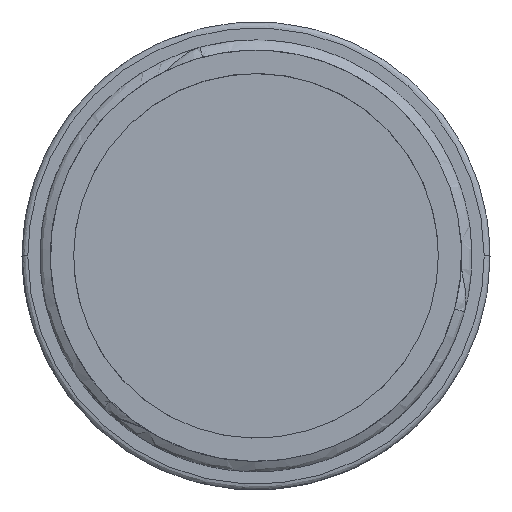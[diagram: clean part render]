
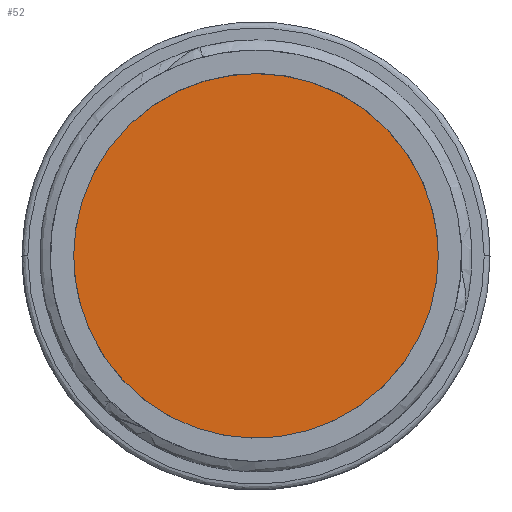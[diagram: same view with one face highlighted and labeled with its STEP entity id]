
A CAD part, top view. The second image highlights one B-rep face of the part: STEP entity #52.
In plain terms, the highlighted planar face has unit normal (0, 0, 1).
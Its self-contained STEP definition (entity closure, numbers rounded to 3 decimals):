
#52=ADVANCED_FACE('',(#85),#506,.T.);
#85=FACE_OUTER_BOUND('',#120,.T.);
#120=EDGE_LOOP('',(#244,#245));
#244=ORIENTED_EDGE('',*,*,#342,.T.);
#245=ORIENTED_EDGE('',*,*,#348,.T.);
#342=EDGE_CURVE('',#488,#487,#385,.T.);
#348=EDGE_CURVE('',#487,#488,#388,.T.);
#385=(
BOUNDED_CURVE()
B_SPLINE_CURVE(2,(#2980,#2981,#2982,#2983,#2984),.UNSPECIFIED.,.F.,.F.)
B_SPLINE_CURVE_WITH_KNOTS((3,2,3),(-64.,-32.,0.),
 .UNSPECIFIED.)
CURVE()
GEOMETRIC_REPRESENTATION_ITEM()
RATIONAL_B_SPLINE_CURVE((1.,0.707,1.,0.707,1.))
REPRESENTATION_ITEM('')
);
#388=(
BOUNDED_CURVE()
B_SPLINE_CURVE(2,(#3089,#3090,#3091,#3092,#3093),.UNSPECIFIED.,.F.,.F.)
B_SPLINE_CURVE_WITH_KNOTS((3,2,3),(-64.,-32.,0.),.UNSPECIFIED.)
CURVE()
GEOMETRIC_REPRESENTATION_ITEM()
RATIONAL_B_SPLINE_CURVE((1.,0.707,1.,0.707,1.))
REPRESENTATION_ITEM('')
);
#487=VERTEX_POINT('',#2042);
#488=VERTEX_POINT('',#2043);
#506=PLANE('',#559);
#559=AXIS2_PLACEMENT_3D('',#1771,#566,$);
#566=DIRECTION('',(0.,0.,1.));
#1771=CARTESIAN_POINT('',(13.838,13.838,-21.003));
#2042=CARTESIAN_POINT('',(0.,13.566,-21.003));
#2043=CARTESIAN_POINT('',(0.,-13.566,-21.003));
#2980=CARTESIAN_POINT('',(0.,-13.566,-21.003));
#2981=CARTESIAN_POINT('',(13.566,-13.566,-21.003));
#2982=CARTESIAN_POINT('',(13.566,0.,-21.003));
#2983=CARTESIAN_POINT('',(13.566,13.566,-21.003));
#2984=CARTESIAN_POINT('',(0.,13.566,-21.003));
#3089=CARTESIAN_POINT('',(0.,13.566,-21.003));
#3090=CARTESIAN_POINT('',(-13.566,13.566,-21.003));
#3091=CARTESIAN_POINT('',(-13.566,0.,-21.003));
#3092=CARTESIAN_POINT('',(-13.566,-13.566,-21.003));
#3093=CARTESIAN_POINT('',(0.,-13.566,-21.003));
